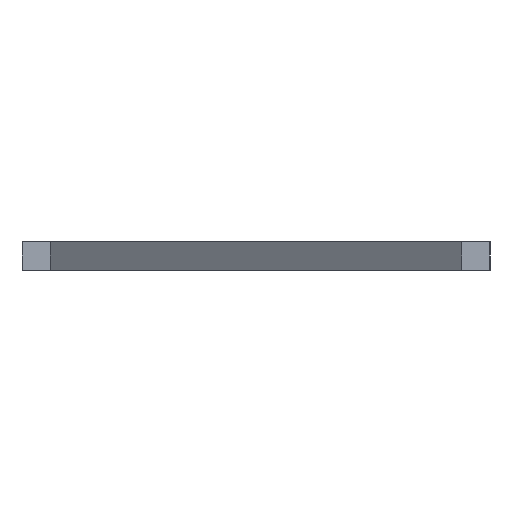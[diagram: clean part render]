
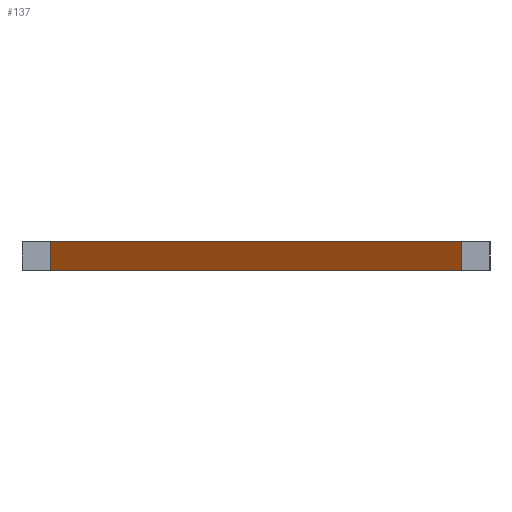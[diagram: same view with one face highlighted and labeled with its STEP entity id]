
A CAD part, left-side view. The second image highlights one B-rep face of the part: STEP entity #137.
In plain terms, the highlighted planar face has unit normal (-0.783, 0.623, 0).
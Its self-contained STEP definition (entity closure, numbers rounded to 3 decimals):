
#21 = EDGE_CURVE('',#22,#24,#26,.T.);
#22 = VERTEX_POINT('',#23);
#23 = CARTESIAN_POINT('',(23.,18.,0.));
#24 = VERTEX_POINT('',#25);
#25 = CARTESIAN_POINT('',(23.,18.,18.));
#26 = SURFACE_CURVE('',#27,(#31,#43),.PCURVE_S1.);
#27 = LINE('',#28,#29);
#28 = CARTESIAN_POINT('',(23.,18.,0.));
#29 = VECTOR('',#30,1.);
#30 = DIRECTION('',(0.,0.,1.));
#31 = PCURVE('',#32,#37);
#32 = PLANE('',#33);
#33 = AXIS2_PLACEMENT_3D('',#34,#35,#36);
#34 = CARTESIAN_POINT('',(23.,18.,0.));
#35 = DIRECTION('',(0.,1.,0.));
#36 = DIRECTION('',(1.,0.,0.));
#37 = DEFINITIONAL_REPRESENTATION('',(#38),#42);
#38 = LINE('',#39,#40);
#39 = CARTESIAN_POINT('',(0.,0.));
#40 = VECTOR('',#41,1.);
#41 = DIRECTION('',(0.,-1.));
#42 = ( GEOMETRIC_REPRESENTATION_CONTEXT(2) 
PARAMETRIC_REPRESENTATION_CONTEXT() REPRESENTATION_CONTEXT('2D SPACE',''
  ) );
#43 = PCURVE('',#44,#49);
#44 = PLANE('',#45);
#45 = AXIS2_PLACEMENT_3D('',#46,#47,#48);
#46 = CARTESIAN_POINT('',(233.,282.,0.));
#47 = DIRECTION('',(0.783,-0.623,0.));
#48 = DIRECTION('',(-0.623,-0.783,0.));
#49 = DEFINITIONAL_REPRESENTATION('',(#50),#54);
#50 = LINE('',#51,#52);
#51 = CARTESIAN_POINT('',(337.337,0.));
#52 = VECTOR('',#53,1.);
#53 = DIRECTION('',(0.,-1.));
#54 = ( GEOMETRIC_REPRESENTATION_CONTEXT(2) 
PARAMETRIC_REPRESENTATION_CONTEXT() REPRESENTATION_CONTEXT('2D SPACE',''
  ) );
#72 = PLANE('',#73);
#73 = AXIS2_PLACEMENT_3D('',#74,#75,#76);
#74 = CARTESIAN_POINT('',(400.,117.645,18.));
#75 = DIRECTION('',(0.,0.,1.));
#76 = DIRECTION('',(1.,0.,-0.));
#126 = PLANE('',#127);
#127 = AXIS2_PLACEMENT_3D('',#128,#129,#130);
#128 = CARTESIAN_POINT('',(400.,117.645,0.));
#129 = DIRECTION('',(0.,0.,1.));
#130 = DIRECTION('',(1.,0.,-0.));
#137 = ADVANCED_FACE('',(#138),#44,.F.);
#138 = FACE_BOUND('',#139,.F.);
#139 = EDGE_LOOP('',(#140,#170,#191,#192));
#140 = ORIENTED_EDGE('',*,*,#141,.T.);
#141 = EDGE_CURVE('',#142,#144,#146,.T.);
#142 = VERTEX_POINT('',#143);
#143 = CARTESIAN_POINT('',(233.,282.,0.));
#144 = VERTEX_POINT('',#145);
#145 = CARTESIAN_POINT('',(233.,282.,18.));
#146 = SURFACE_CURVE('',#147,(#151,#158),.PCURVE_S1.);
#147 = LINE('',#148,#149);
#148 = CARTESIAN_POINT('',(233.,282.,0.));
#149 = VECTOR('',#150,1.);
#150 = DIRECTION('',(0.,0.,1.));
#151 = PCURVE('',#44,#152);
#152 = DEFINITIONAL_REPRESENTATION('',(#153),#157);
#153 = LINE('',#154,#155);
#154 = CARTESIAN_POINT('',(0.,0.));
#155 = VECTOR('',#156,1.);
#156 = DIRECTION('',(0.,-1.));
#157 = ( GEOMETRIC_REPRESENTATION_CONTEXT(2) 
PARAMETRIC_REPRESENTATION_CONTEXT() REPRESENTATION_CONTEXT('2D SPACE',''
  ) );
#158 = PCURVE('',#159,#164);
#159 = PLANE('',#160);
#160 = AXIS2_PLACEMENT_3D('',#161,#162,#163);
#161 = CARTESIAN_POINT('',(255.,282.,0.));
#162 = DIRECTION('',(0.,-1.,0.));
#163 = DIRECTION('',(-1.,0.,0.));
#164 = DEFINITIONAL_REPRESENTATION('',(#165),#169);
#165 = LINE('',#166,#167);
#166 = CARTESIAN_POINT('',(22.,0.));
#167 = VECTOR('',#168,1.);
#168 = DIRECTION('',(0.,-1.));
#169 = ( GEOMETRIC_REPRESENTATION_CONTEXT(2) 
PARAMETRIC_REPRESENTATION_CONTEXT() REPRESENTATION_CONTEXT('2D SPACE',''
  ) );
#170 = ORIENTED_EDGE('',*,*,#171,.T.);
#171 = EDGE_CURVE('',#144,#24,#172,.T.);
#172 = SURFACE_CURVE('',#173,(#177,#184),.PCURVE_S1.);
#173 = LINE('',#174,#175);
#174 = CARTESIAN_POINT('',(233.,282.,18.));
#175 = VECTOR('',#176,1.);
#176 = DIRECTION('',(-0.623,-0.783,0.));
#177 = PCURVE('',#44,#178);
#178 = DEFINITIONAL_REPRESENTATION('',(#179),#183);
#179 = LINE('',#180,#181);
#180 = CARTESIAN_POINT('',(0.,-18.));
#181 = VECTOR('',#182,1.);
#182 = DIRECTION('',(1.,0.));
#183 = ( GEOMETRIC_REPRESENTATION_CONTEXT(2) 
PARAMETRIC_REPRESENTATION_CONTEXT() REPRESENTATION_CONTEXT('2D SPACE',''
  ) );
#184 = PCURVE('',#72,#185);
#185 = DEFINITIONAL_REPRESENTATION('',(#186),#190);
#186 = LINE('',#187,#188);
#187 = CARTESIAN_POINT('',(-167.,164.355));
#188 = VECTOR('',#189,1.);
#189 = DIRECTION('',(-0.623,-0.783));
#190 = ( GEOMETRIC_REPRESENTATION_CONTEXT(2) 
PARAMETRIC_REPRESENTATION_CONTEXT() REPRESENTATION_CONTEXT('2D SPACE',''
  ) );
#191 = ORIENTED_EDGE('',*,*,#21,.F.);
#192 = ORIENTED_EDGE('',*,*,#193,.F.);
#193 = EDGE_CURVE('',#142,#22,#194,.T.);
#194 = SURFACE_CURVE('',#195,(#199,#206),.PCURVE_S1.);
#195 = LINE('',#196,#197);
#196 = CARTESIAN_POINT('',(233.,282.,0.));
#197 = VECTOR('',#198,1.);
#198 = DIRECTION('',(-0.623,-0.783,0.));
#199 = PCURVE('',#44,#200);
#200 = DEFINITIONAL_REPRESENTATION('',(#201),#205);
#201 = LINE('',#202,#203);
#202 = CARTESIAN_POINT('',(0.,0.));
#203 = VECTOR('',#204,1.);
#204 = DIRECTION('',(1.,0.));
#205 = ( GEOMETRIC_REPRESENTATION_CONTEXT(2) 
PARAMETRIC_REPRESENTATION_CONTEXT() REPRESENTATION_CONTEXT('2D SPACE',''
  ) );
#206 = PCURVE('',#126,#207);
#207 = DEFINITIONAL_REPRESENTATION('',(#208),#212);
#208 = LINE('',#209,#210);
#209 = CARTESIAN_POINT('',(-167.,164.355));
#210 = VECTOR('',#211,1.);
#211 = DIRECTION('',(-0.623,-0.783));
#212 = ( GEOMETRIC_REPRESENTATION_CONTEXT(2) 
PARAMETRIC_REPRESENTATION_CONTEXT() REPRESENTATION_CONTEXT('2D SPACE',''
  ) );
